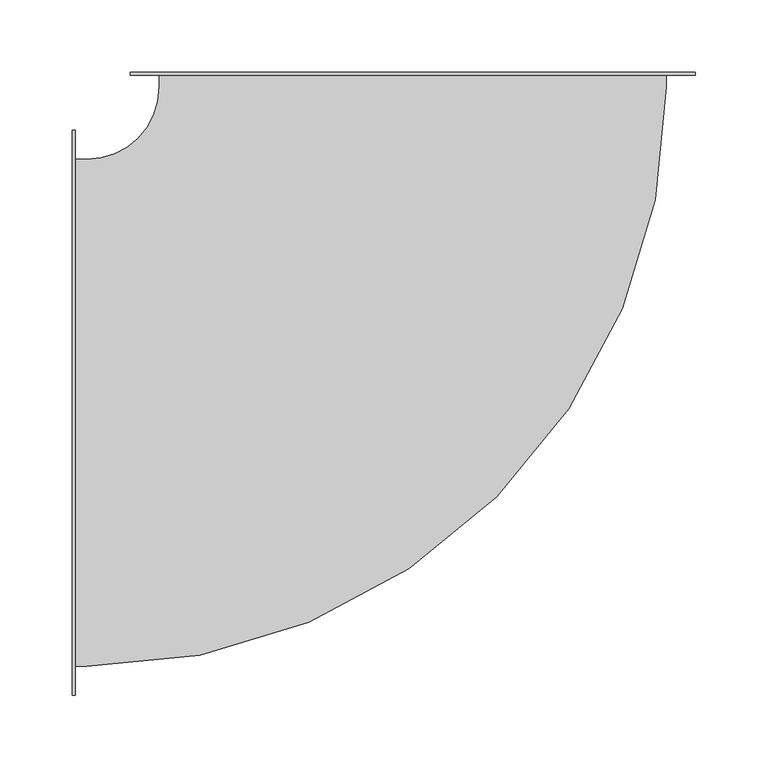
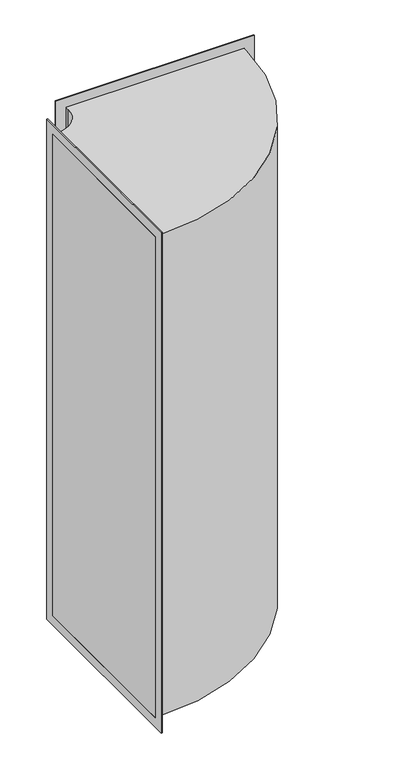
"""IFC4 building model written with IfcOpenShell, lengths in millimetres: duct fitting geometry, ADSK_ОтводВоздуховодов_Прямоугольный : Стандарт."""

from ifc_helpers import new_model, si_unit, point, frame, frame_2d, origin, place, context, project, spatial, polyline, circle_curve, trimmed, segment, composite_curve, outline, extrude, source, transform, mapped, element, save


def duct_fitting_f04576ac(model_context):
    return source(origin(), model_context, "Body", "SweptSolid", [
        extrude(outline(composite_curve([segment(trimmed(circle_curve(frame_2d((-225.0, 225.0)), 50.0), [point((-225.0, 175.0))], [point((-175.0, 225.0))], True, "CARTESIAN"), True, "CONTINUOUS"), segment(polyline([(-175.0, 225.0), (-175.0, 235.0), (175.0, 235.0), (175.0, 225.0)]), True, "CONTINUOUS"), segment(trimmed(circle_curve(frame_2d((-225.0, 225.0)), 400.0), [point((175.0, 225.0))], [point((-225.0, -175.0))], False, "CARTESIAN"), True, "CONTINUOUS"), segment(polyline([(-225.0, -175.0), (-235.0, -175.0), (-235.0, 175.0), (-225.0, 175.0)]), True, "CONTINUOUS")], self_intersect=False)), frame((0.0, 0.0, -500.0), z_axis=(0.0, 0.0, 1.0), x_axis=(1.0, 0.0, 0.0)), (0.0, 0.0, 1.0), 1000.0),
        extrude(outline(polyline([(-195.0, 520.0), (195.0, 520.0), (195.0, -520.0), (-195.0, -520.0), (-195.0, 520.0)]), holes=[polyline([(-175.0, 500.0), (-175.0, -500.0), (175.0, -500.0), (175.0, 500.0), (-175.0, 500.0)])]), frame((-235.0, 0.0, 0.0), z_axis=(1.0, 0.0, 0.0), x_axis=(0.0, 1.0, 0.0)), (0.0, 0.0, 1.0), 2.0),
        extrude(outline(polyline([(520.0, 195.0), (520.0, -195.0), (-520.0, -195.0), (-520.0, 195.0), (520.0, 195.0)]), holes=[polyline([(500.0, 175.0), (-500.0, 175.0), (-500.0, -175.0), (500.0, -175.0), (500.0, 175.0)])]), frame((0.0, 233.0, 0.0), z_axis=(0.0, 1.0, 0.0), x_axis=(0.0, 0.0, 1.0)), (0.0, 0.0, 1.0), 2.0),
    ])


if __name__ == "__main__":
    model = new_model("IFC4")
    model_context = context("Model", 3, world=origin())
    ifc_project = project(units=[si_unit("LENGTHUNIT", "METRE", prefix="MILLI")], contexts=[model_context])
    site = spatial("IfcSite", under=ifc_project)
    building = spatial("IfcBuilding", under=site)
    placement = place(None, origin())
    duct_fitting_shape = duct_fitting_f04576ac(model_context)
    element("IfcDuctFitting", 1, ObjectType="ADSK_ОтводВоздуховодов_Прямоугольный : Стандарт", at=placement, inside=building, context=model_context, shape_type="MappedRepresentation", body=[
        mapped(duct_fitting_shape, transform((0.0, 0.0, 0.0), x_axis=(1.0, 0.0, 0.0), y_axis=(0.0, 1.0, 0.0), z_axis=(0.0, 0.0, 1.0))),
    ])
    save(model, "model.ifc")
